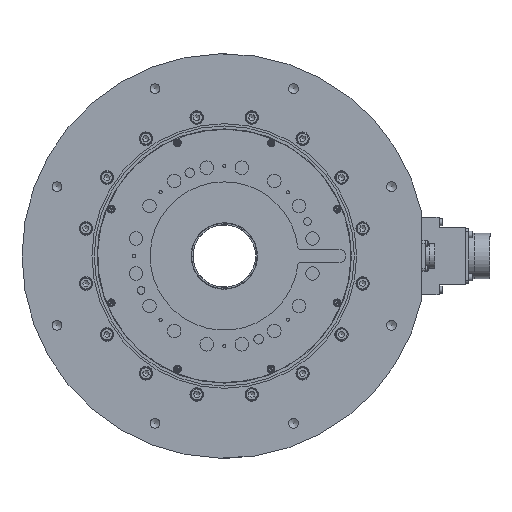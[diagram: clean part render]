
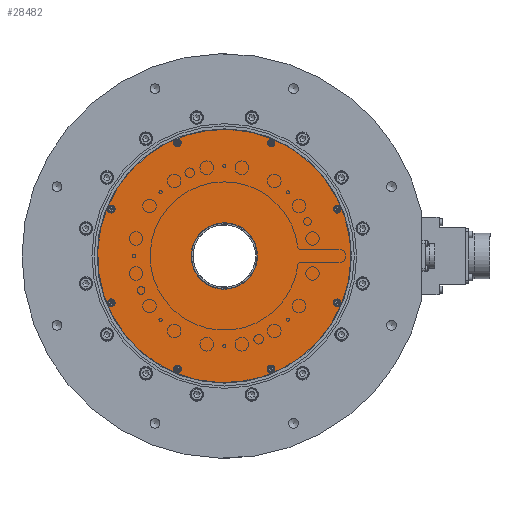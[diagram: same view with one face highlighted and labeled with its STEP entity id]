
A CAD part, front view. The second image highlights one B-rep face of the part: STEP entity #28482.
In plain terms, the highlighted planar face has unit normal (0, -1, 0).
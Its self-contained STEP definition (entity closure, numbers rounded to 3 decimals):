
#154 = EDGE_LOOP ( 'NONE', ( #15468 ) ) ;
#862 = EDGE_CURVE ( 'NONE', #9490, #9490, #24786, .T. ) ;
#1216 = VERTEX_POINT ( 'NONE', #22679 ) ;
#1762 = DIRECTION ( 'NONE',  ( 0.383, 0., 0.924 ) ) ;
#2010 = FACE_BOUND ( 'NONE', #25648, .T. ) ;
#2154 = CARTESIAN_POINT ( 'NONE',  ( -48.601, -3.2, 117.333 ) ) ;
#2205 = DIRECTION ( 'NONE',  ( 0., 1., 0. ) ) ;
#2531 = CARTESIAN_POINT ( 'NONE',  ( 50.323, -3.2, 121.49 ) ) ;
#2688 = CARTESIAN_POINT ( 'NONE',  ( -117.333, -3.2, 48.601 ) ) ;
#2943 = CIRCLE ( 'NONE', #31259, 2.5 ) ;
#3020 = AXIS2_PLACEMENT_3D ( 'NONE', #2688, #26394, #33743 ) ;
#3449 = ORIENTED_EDGE ( 'NONE', *, *, #11525, .T. ) ;
#3831 = CARTESIAN_POINT ( 'NONE',  ( 0., -3.2, 0. ) ) ;
#4000 = FACE_BOUND ( 'NONE', #21668, .T. ) ;
#4164 = EDGE_CURVE ( 'NONE', #15256, #15256, #9022, .T. ) ;
#4613 = AXIS2_PLACEMENT_3D ( 'NONE', #23526, #2205, #28790 ) ;
#4919 = EDGE_LOOP ( 'NONE', ( #8663 ) ) ;
#5730 = AXIS2_PLACEMENT_3D ( 'NONE', #2154, #31145, #9966 ) ;
#5774 = VERTEX_POINT ( 'NONE', #13583 ) ;
#6157 = PLANE ( 'NONE',  #20033 ) ;
#7300 = FACE_BOUND ( 'NONE', #12457, .T. ) ;
#7714 = CIRCLE ( 'NONE', #4613, 2.5 ) ;
#7881 = EDGE_CURVE ( 'NONE', #5774, #5774, #15422, .T. ) ;
#8511 = DIRECTION ( 'NONE',  ( 0.383, 0., 0.924 ) ) ;
#8663 = ORIENTED_EDGE ( 'NONE', *, *, #22261, .T. ) ;
#8983 = ORIENTED_EDGE ( 'NONE', *, *, #18955, .T. ) ;
#9022 = CIRCLE ( 'NONE', #26449, 131.5 ) ;
#9490 = VERTEX_POINT ( 'NONE', #28649 ) ;
#9580 = CIRCLE ( 'NONE', #31715, 2.5 ) ;
#9796 = VERTEX_POINT ( 'NONE', #10405 ) ;
#9966 = DIRECTION ( 'NONE',  ( 0.383, 0., 0.924 ) ) ;
#10027 = DIRECTION ( 'NONE',  ( 0., 1., 0. ) ) ;
#10405 = CARTESIAN_POINT ( 'NONE',  ( 118.289, -3.2, -46.291 ) ) ;
#10619 = AXIS2_PLACEMENT_3D ( 'NONE', #31643, #32104, #21252 ) ;
#11019 = FACE_OUTER_BOUND ( 'NONE', #18605, .T. ) ;
#11157 = CARTESIAN_POINT ( 'NONE',  ( 49.558, -3.2, -115.023 ) ) ;
#11339 = ORIENTED_EDGE ( 'NONE', *, *, #29203, .T. ) ;
#11480 = CARTESIAN_POINT ( 'NONE',  ( -47.644, -3.2, -115.023 ) ) ;
#11525 = EDGE_CURVE ( 'NONE', #17630, #17630, #2943, .T. ) ;
#11860 = FACE_BOUND ( 'NONE', #4919, .T. ) ;
#11959 = AXIS2_PLACEMENT_3D ( 'NONE', #28176, #25216, #30464 ) ;
#12457 = EDGE_LOOP ( 'NONE', ( #3449 ) ) ;
#13151 = CIRCLE ( 'NONE', #5730, 2.5 ) ;
#13322 = EDGE_LOOP ( 'NONE', ( #11339 ) ) ;
#13583 = CARTESIAN_POINT ( 'NONE',  ( 118.289, -3.2, 50.91 ) ) ;
#13804 = DIRECTION ( 'NONE',  ( 0., 1., 0. ) ) ;
#14716 = DIRECTION ( 'NONE',  ( 0., 1., 0. ) ) ;
#15256 = VERTEX_POINT ( 'NONE', #2531 ) ;
#15422 = CIRCLE ( 'NONE', #26546, 2.5 ) ;
#15468 = ORIENTED_EDGE ( 'NONE', *, *, #21198, .T. ) ;
#15471 = CIRCLE ( 'NONE', #3020, 2.5 ) ;
#15509 = ORIENTED_EDGE ( 'NONE', *, *, #17556, .T. ) ;
#16181 = ORIENTED_EDGE ( 'NONE', *, *, #31573, .T. ) ;
#16366 = AXIS2_PLACEMENT_3D ( 'NONE', #23196, #10027, #1762 ) ;
#16410 = DIRECTION ( 'NONE',  ( 0.383, 0., 0.924 ) ) ;
#16705 = DIRECTION ( 'NONE',  ( 0., 1., 0. ) ) ;
#17556 = EDGE_CURVE ( 'NONE', #1216, #1216, #13151, .T. ) ;
#17630 = VERTEX_POINT ( 'NONE', #11157 ) ;
#17955 = FACE_BOUND ( 'NONE', #20740, .T. ) ;
#17969 = VERTEX_POINT ( 'NONE', #23704 ) ;
#18513 = ORIENTED_EDGE ( 'NONE', *, *, #7881, .T. ) ;
#18605 = EDGE_LOOP ( 'NONE', ( #32296 ) ) ;
#18955 = EDGE_CURVE ( 'NONE', #20485, #20485, #22054, .T. ) ;
#19051 = CARTESIAN_POINT ( 'NONE',  ( 117.333, -3.2, -48.601 ) ) ;
#19177 = DIRECTION ( 'NONE',  ( 0., 1., 0. ) ) ;
#19887 = CIRCLE ( 'NONE', #16366, 2.5 ) ;
#20033 = AXIS2_PLACEMENT_3D ( 'NONE', #3831, #16705, #32486 ) ;
#20439 = FACE_BOUND ( 'NONE', #21460, .T. ) ;
#20485 = VERTEX_POINT ( 'NONE', #33548 ) ;
#20740 = EDGE_LOOP ( 'NONE', ( #16181 ) ) ;
#21198 = EDGE_CURVE ( 'NONE', #9796, #9796, #9580, .T. ) ;
#21252 = DIRECTION ( 'NONE',  ( 0.383, 0., 0.924 ) ) ;
#21460 = EDGE_LOOP ( 'NONE', ( #18513 ) ) ;
#21668 = EDGE_LOOP ( 'NONE', ( #8983 ) ) ;
#22054 = CIRCLE ( 'NONE', #10619, 34.5 ) ;
#22146 = FACE_BOUND ( 'NONE', #22764, .T. ) ;
#22261 = EDGE_CURVE ( 'NONE', #17969, #17969, #15471, .T. ) ;
#22679 = CARTESIAN_POINT ( 'NONE',  ( -47.644, -3.2, 119.642 ) ) ;
#22764 = EDGE_LOOP ( 'NONE', ( #27488 ) ) ;
#22866 = VERTEX_POINT ( 'NONE', #25391 ) ;
#23196 = CARTESIAN_POINT ( 'NONE',  ( -117.333, -3.2, -48.601 ) ) ;
#23526 = CARTESIAN_POINT ( 'NONE',  ( -48.601, -3.2, -117.333 ) ) ;
#23704 = CARTESIAN_POINT ( 'NONE',  ( -116.376, -3.2, 50.91 ) ) ;
#23987 = VERTEX_POINT ( 'NONE', #11480 ) ;
#24202 = CARTESIAN_POINT ( 'NONE',  ( 117.333, -3.2, 48.601 ) ) ;
#24236 = DIRECTION ( 'NONE',  ( 0., 1., 0. ) ) ;
#24786 = CIRCLE ( 'NONE', #11959, 2.5 ) ;
#24937 = FACE_BOUND ( 'NONE', #154, .T. ) ;
#25216 = DIRECTION ( 'NONE',  ( 0., 1., 0. ) ) ;
#25391 = CARTESIAN_POINT ( 'NONE',  ( -116.376, -3.2, -46.291 ) ) ;
#25648 = EDGE_LOOP ( 'NONE', ( #15509 ) ) ;
#26382 = CARTESIAN_POINT ( 'NONE',  ( 48.601, -3.2, -117.333 ) ) ;
#26394 = DIRECTION ( 'NONE',  ( 0., 1., 0. ) ) ;
#26449 = AXIS2_PLACEMENT_3D ( 'NONE', #27840, #14716, #32993 ) ;
#26546 = AXIS2_PLACEMENT_3D ( 'NONE', #24202, #13804, #16410 ) ;
#27488 = ORIENTED_EDGE ( 'NONE', *, *, #862, .T. ) ;
#27840 = CARTESIAN_POINT ( 'NONE',  ( 0., -3.2, 0. ) ) ;
#28176 = CARTESIAN_POINT ( 'NONE',  ( 48.601, -3.2, 117.333 ) ) ;
#28482 = ADVANCED_FACE ( 'NONE', ( #29444, #7300, #24937, #20439, #22146, #2010, #11860, #17955, #11019, #4000 ), #6157, .F. ) ;
#28649 = CARTESIAN_POINT ( 'NONE',  ( 49.558, -3.2, 119.642 ) ) ;
#28790 = DIRECTION ( 'NONE',  ( 0.383, 0., 0.924 ) ) ;
#29203 = EDGE_CURVE ( 'NONE', #23987, #23987, #7714, .T. ) ;
#29444 = FACE_BOUND ( 'NONE', #13322, .T. ) ;
#30464 = DIRECTION ( 'NONE',  ( 0.383, 0., 0.924 ) ) ;
#31145 = DIRECTION ( 'NONE',  ( 0., 1., 0. ) ) ;
#31259 = AXIS2_PLACEMENT_3D ( 'NONE', #26382, #24236, #32014 ) ;
#31573 = EDGE_CURVE ( 'NONE', #22866, #22866, #19887, .T. ) ;
#31643 = CARTESIAN_POINT ( 'NONE',  ( 0., -3.2, 0. ) ) ;
#31715 = AXIS2_PLACEMENT_3D ( 'NONE', #19051, #19177, #8511 ) ;
#32014 = DIRECTION ( 'NONE',  ( 0.383, 0., 0.924 ) ) ;
#32104 = DIRECTION ( 'NONE',  ( 0., 1., 0. ) ) ;
#32296 = ORIENTED_EDGE ( 'NONE', *, *, #4164, .F. ) ;
#32486 = DIRECTION ( 'NONE',  ( 0.383, 0., 0.924 ) ) ;
#32993 = DIRECTION ( 'NONE',  ( 0.383, 0., 0.924 ) ) ;
#33548 = CARTESIAN_POINT ( 'NONE',  ( 13.203, -3.2, 31.874 ) ) ;
#33743 = DIRECTION ( 'NONE',  ( 0.383, 0., 0.924 ) ) ;
